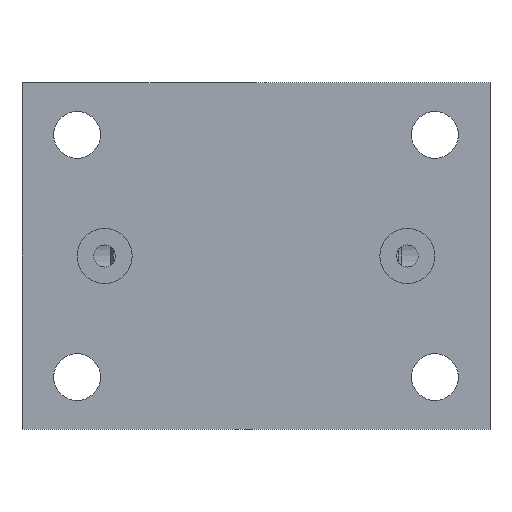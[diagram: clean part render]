
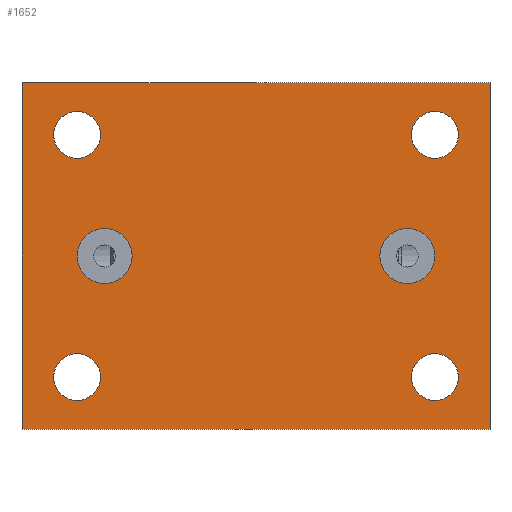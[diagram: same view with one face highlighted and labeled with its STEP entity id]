
A CAD part, front view. The second image highlights one B-rep face of the part: STEP entity #1652.
In plain terms, the highlighted planar face has unit normal (0, -1, 0).
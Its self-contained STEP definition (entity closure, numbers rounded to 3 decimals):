
#4 = LINE ( 'NONE', #450, #672 ) ;
#5 = EDGE_LOOP ( 'NONE', ( #1700, #1334 ) ) ;
#39 = ORIENTED_EDGE ( 'NONE', *, *, #1255, .T. ) ;
#76 = FACE_BOUND ( 'NONE', #1566, .T. ) ;
#87 = ORIENTED_EDGE ( 'NONE', *, *, #806, .F. ) ;
#108 = ORIENTED_EDGE ( 'NONE', *, *, #1341, .F. ) ;
#127 = ORIENTED_EDGE ( 'NONE', *, *, #398, .F. ) ;
#128 = DIRECTION ( 'NONE',  ( 0., 0., 1. ) ) ;
#139 = VERTEX_POINT ( 'NONE', #417 ) ;
#167 = DIRECTION ( 'NONE',  ( 0., 0., 1. ) ) ;
#172 = DIRECTION ( 'NONE',  ( 0., 0., 1. ) ) ;
#174 = EDGE_CURVE ( 'NONE', #1538, #670, #466, .T. ) ;
#177 = DIRECTION ( 'NONE',  ( 0., 1., 0. ) ) ;
#195 = CARTESIAN_POINT ( 'NONE',  ( -27.5, 0., 0. ) ) ;
#202 = EDGE_CURVE ( 'NONE', #1389, #1190, #598, .T. ) ;
#215 = DIRECTION ( 'NONE',  ( 0., 0., -1. ) ) ;
#226 = AXIS2_PLACEMENT_3D ( 'NONE', #910, #784, #128 ) ;
#265 = CARTESIAN_POINT ( 'NONE',  ( 27.5, 0., 0. ) ) ;
#266 = CARTESIAN_POINT ( 'NONE',  ( 42.5, 0., 31.5 ) ) ;
#267 = FACE_BOUND ( 'NONE', #1451, .T. ) ;
#296 = VERTEX_POINT ( 'NONE', #813 ) ;
#305 = DIRECTION ( 'NONE',  ( 0., 1., 0. ) ) ;
#315 = AXIS2_PLACEMENT_3D ( 'NONE', #1073, #305, #1221 ) ;
#338 = DIRECTION ( 'NONE',  ( 0., 0., -1. ) ) ;
#340 = EDGE_CURVE ( 'NONE', #1637, #1469, #659, .T. ) ;
#342 = VERTEX_POINT ( 'NONE', #681 ) ;
#370 = AXIS2_PLACEMENT_3D ( 'NONE', #1212, #1359, #172 ) ;
#375 = VERTEX_POINT ( 'NONE', #1631 ) ;
#377 = FACE_BOUND ( 'NONE', #5, .T. ) ;
#393 = DIRECTION ( 'NONE',  ( 0., 1., 0. ) ) ;
#398 = EDGE_CURVE ( 'NONE', #139, #1382, #1411, .T. ) ;
#417 = CARTESIAN_POINT ( 'NONE',  ( 27.5, 0., -5. ) ) ;
#437 = CIRCLE ( 'NONE', #1688, 4.25 ) ;
#450 = CARTESIAN_POINT ( 'NONE',  ( 42.5, 0., -31.5 ) ) ;
#459 = DIRECTION ( 'NONE',  ( 0., 0., 1. ) ) ;
#466 = CIRCLE ( 'NONE', #370, 4.25 ) ;
#476 = AXIS2_PLACEMENT_3D ( 'NONE', #1452, #1048, #641 ) ;
#518 = EDGE_CURVE ( 'NONE', #296, #1173, #584, .T. ) ;
#543 = VECTOR ( 'NONE', #840, 1000. ) ;
#564 = DIRECTION ( 'NONE',  ( 0., 0., 1. ) ) ;
#577 = DIRECTION ( 'NONE',  ( 1., 0., 0. ) ) ;
#581 = VERTEX_POINT ( 'NONE', #1569 ) ;
#583 = VERTEX_POINT ( 'NONE', #771 ) ;
#584 = CIRCLE ( 'NONE', #730, 4.25 ) ;
#592 = CARTESIAN_POINT ( 'NONE',  ( 32.5, 0., -22. ) ) ;
#596 = DIRECTION ( 'NONE',  ( 0., -1., 0. ) ) ;
#598 = CIRCLE ( 'NONE', #824, 4.25 ) ;
#635 = ORIENTED_EDGE ( 'NONE', *, *, #518, .T. ) ;
#641 = DIRECTION ( 'NONE',  ( 0., 0., -1. ) ) ;
#649 = LINE ( 'NONE', #1669, #543 ) ;
#656 = EDGE_CURVE ( 'NONE', #342, #581, #876, .T. ) ;
#659 = CIRCLE ( 'NONE', #1380, 4.25 ) ;
#662 = EDGE_CURVE ( 'NONE', #670, #1538, #1480, .T. ) ;
#668 = VERTEX_POINT ( 'NONE', #266 ) ;
#670 = VERTEX_POINT ( 'NONE', #1307 ) ;
#672 = VECTOR ( 'NONE', #215, 1000. ) ;
#681 = CARTESIAN_POINT ( 'NONE',  ( -27.5, 0., -5. ) ) ;
#693 = CIRCLE ( 'NONE', #1640, 5. ) ;
#695 = AXIS2_PLACEMENT_3D ( 'NONE', #265, #1047, #1300 ) ;
#713 = DIRECTION ( 'NONE',  ( 0., 0., 1. ) ) ;
#730 = AXIS2_PLACEMENT_3D ( 'NONE', #1182, #393, #1321 ) ;
#738 = CARTESIAN_POINT ( 'NONE',  ( 32.5, 0., 26.25 ) ) ;
#771 = CARTESIAN_POINT ( 'NONE',  ( 42.5, 0., -31.5 ) ) ;
#772 = LINE ( 'NONE', #1240, #1456 ) ;
#784 = DIRECTION ( 'NONE',  ( 0., 1., 0. ) ) ;
#801 = CARTESIAN_POINT ( 'NONE',  ( -32.5, 0., 22. ) ) ;
#806 = EDGE_CURVE ( 'NONE', #1457, #668, #772, .T. ) ;
#813 = CARTESIAN_POINT ( 'NONE',  ( 32.5, 0., -17.75 ) ) ;
#824 = AXIS2_PLACEMENT_3D ( 'NONE', #1602, #1071, #946 ) ;
#840 = DIRECTION ( 'NONE',  ( 0., 0., 1. ) ) ;
#852 = DIRECTION ( 'NONE',  ( 0., -1., 0. ) ) ;
#856 = DIRECTION ( 'NONE',  ( 0., 0., -1. ) ) ;
#870 = EDGE_LOOP ( 'NONE', ( #1713, #1536 ) ) ;
#876 = CIRCLE ( 'NONE', #476, 5. ) ;
#887 = EDGE_CURVE ( 'NONE', #1190, #1389, #437, .T. ) ;
#910 = CARTESIAN_POINT ( 'NONE',  ( 32.5, 0., 22. ) ) ;
#939 = CIRCLE ( 'NONE', #956, 4.25 ) ;
#942 = CARTESIAN_POINT ( 'NONE',  ( 32.5, 0., -26.25 ) ) ;
#946 = DIRECTION ( 'NONE',  ( 0., 0., 1. ) ) ;
#956 = AXIS2_PLACEMENT_3D ( 'NONE', #592, #1517, #713 ) ;
#962 = CARTESIAN_POINT ( 'NONE',  ( -42.5, 0., -31.5 ) ) ;
#973 = EDGE_LOOP ( 'NONE', ( #635, #39 ) ) ;
#990 = CARTESIAN_POINT ( 'NONE',  ( -32.5, 0., -22. ) ) ;
#1047 = DIRECTION ( 'NONE',  ( 0., -1., 0. ) ) ;
#1048 = DIRECTION ( 'NONE',  ( 0., -1., 0. ) ) ;
#1052 = ORIENTED_EDGE ( 'NONE', *, *, #340, .T. ) ;
#1071 = DIRECTION ( 'NONE',  ( 0., 1., 0. ) ) ;
#1073 = CARTESIAN_POINT ( 'NONE',  ( -32.5, 0., 22. ) ) ;
#1088 = DIRECTION ( 'NONE',  ( -1., 0., 0. ) ) ;
#1124 = CARTESIAN_POINT ( 'NONE',  ( 27.5, 0., 0. ) ) ;
#1161 = EDGE_CURVE ( 'NONE', #583, #375, #1207, .T. ) ;
#1173 = VERTEX_POINT ( 'NONE', #942 ) ;
#1182 = CARTESIAN_POINT ( 'NONE',  ( 32.5, 0., -22. ) ) ;
#1184 = EDGE_CURVE ( 'NONE', #1469, #1637, #1508, .T. ) ;
#1190 = VERTEX_POINT ( 'NONE', #1335 ) ;
#1205 = FACE_BOUND ( 'NONE', #1653, .T. ) ;
#1207 = LINE ( 'NONE', #962, #1336 ) ;
#1212 = CARTESIAN_POINT ( 'NONE',  ( 32.5, 0., 22. ) ) ;
#1221 = DIRECTION ( 'NONE',  ( 0., 0., 1. ) ) ;
#1225 = DIRECTION ( 'NONE',  ( 0., 1., 0. ) ) ;
#1240 = CARTESIAN_POINT ( 'NONE',  ( -42.5, 0., 31.5 ) ) ;
#1255 = EDGE_CURVE ( 'NONE', #1173, #296, #939, .T. ) ;
#1274 = CARTESIAN_POINT ( 'NONE',  ( -32.5, 0., 17.75 ) ) ;
#1284 = ORIENTED_EDGE ( 'NONE', *, *, #1492, .F. ) ;
#1300 = DIRECTION ( 'NONE',  ( 0., 0., -1. ) ) ;
#1307 = CARTESIAN_POINT ( 'NONE',  ( 32.5, 0., 17.75 ) ) ;
#1321 = DIRECTION ( 'NONE',  ( 0., 0., 1. ) ) ;
#1334 = ORIENTED_EDGE ( 'NONE', *, *, #662, .T. ) ;
#1335 = CARTESIAN_POINT ( 'NONE',  ( -32.5, 0., -26.25 ) ) ;
#1336 = VECTOR ( 'NONE', #1088, 1000. ) ;
#1341 = EDGE_CURVE ( 'NONE', #375, #1457, #649, .T. ) ;
#1359 = DIRECTION ( 'NONE',  ( 0., 1., 0. ) ) ;
#1380 = AXIS2_PLACEMENT_3D ( 'NONE', #801, #1225, #564 ) ;
#1382 = VERTEX_POINT ( 'NONE', #1534 ) ;
#1389 = VERTEX_POINT ( 'NONE', #1677 ) ;
#1392 = ORIENTED_EDGE ( 'NONE', *, *, #656, .F. ) ;
#1399 = FACE_OUTER_BOUND ( 'NONE', #1572, .T. ) ;
#1403 = EDGE_CURVE ( 'NONE', #1382, #139, #693, .T. ) ;
#1411 = CIRCLE ( 'NONE', #695, 5. ) ;
#1451 = EDGE_LOOP ( 'NONE', ( #127, #1557 ) ) ;
#1452 = CARTESIAN_POINT ( 'NONE',  ( -27.5, 0., 0. ) ) ;
#1455 = AXIS2_PLACEMENT_3D ( 'NONE', #195, #852, #856 ) ;
#1456 = VECTOR ( 'NONE', #577, 1000. ) ;
#1457 = VERTEX_POINT ( 'NONE', #1526 ) ;
#1462 = EDGE_CURVE ( 'NONE', #581, #342, #1468, .T. ) ;
#1468 = CIRCLE ( 'NONE', #1455, 5. ) ;
#1469 = VERTEX_POINT ( 'NONE', #1680 ) ;
#1480 = CIRCLE ( 'NONE', #226, 4.25 ) ;
#1482 = CARTESIAN_POINT ( 'NONE',  ( 0., 0., 0. ) ) ;
#1486 = FACE_BOUND ( 'NONE', #870, .T. ) ;
#1491 = PLANE ( 'NONE',  #1551 ) ;
#1492 = EDGE_CURVE ( 'NONE', #668, #583, #4, .T. ) ;
#1508 = CIRCLE ( 'NONE', #315, 4.25 ) ;
#1517 = DIRECTION ( 'NONE',  ( 0., 1., 0. ) ) ;
#1518 = DIRECTION ( 'NONE',  ( 0., 1., 0. ) ) ;
#1526 = CARTESIAN_POINT ( 'NONE',  ( -42.5, 0., 31.5 ) ) ;
#1534 = CARTESIAN_POINT ( 'NONE',  ( 27.5, 0., 5. ) ) ;
#1536 = ORIENTED_EDGE ( 'NONE', *, *, #887, .T. ) ;
#1538 = VERTEX_POINT ( 'NONE', #738 ) ;
#1551 = AXIS2_PLACEMENT_3D ( 'NONE', #1482, #177, #167 ) ;
#1557 = ORIENTED_EDGE ( 'NONE', *, *, #1403, .F. ) ;
#1566 = EDGE_LOOP ( 'NONE', ( #1608, #1052 ) ) ;
#1569 = CARTESIAN_POINT ( 'NONE',  ( -27.5, 0., 5. ) ) ;
#1572 = EDGE_LOOP ( 'NONE', ( #1284, #87, #108, #1576 ) ) ;
#1576 = ORIENTED_EDGE ( 'NONE', *, *, #1161, .F. ) ;
#1599 = ORIENTED_EDGE ( 'NONE', *, *, #1462, .F. ) ;
#1602 = CARTESIAN_POINT ( 'NONE',  ( -32.5, 0., -22. ) ) ;
#1608 = ORIENTED_EDGE ( 'NONE', *, *, #1184, .T. ) ;
#1631 = CARTESIAN_POINT ( 'NONE',  ( -42.5, 0., -31.5 ) ) ;
#1637 = VERTEX_POINT ( 'NONE', #1274 ) ;
#1640 = AXIS2_PLACEMENT_3D ( 'NONE', #1124, #596, #338 ) ;
#1652 = ADVANCED_FACE ( 'NONE', ( #1205, #267, #1723, #377, #76, #1486, #1399 ), #1491, .F. ) ;
#1653 = EDGE_LOOP ( 'NONE', ( #1392, #1599 ) ) ;
#1669 = CARTESIAN_POINT ( 'NONE',  ( -42.5, 0., -31.5 ) ) ;
#1677 = CARTESIAN_POINT ( 'NONE',  ( -32.5, 0., -17.75 ) ) ;
#1680 = CARTESIAN_POINT ( 'NONE',  ( -32.5, 0., 26.25 ) ) ;
#1688 = AXIS2_PLACEMENT_3D ( 'NONE', #990, #1518, #459 ) ;
#1700 = ORIENTED_EDGE ( 'NONE', *, *, #174, .T. ) ;
#1713 = ORIENTED_EDGE ( 'NONE', *, *, #202, .T. ) ;
#1723 = FACE_BOUND ( 'NONE', #973, .T. ) ;
